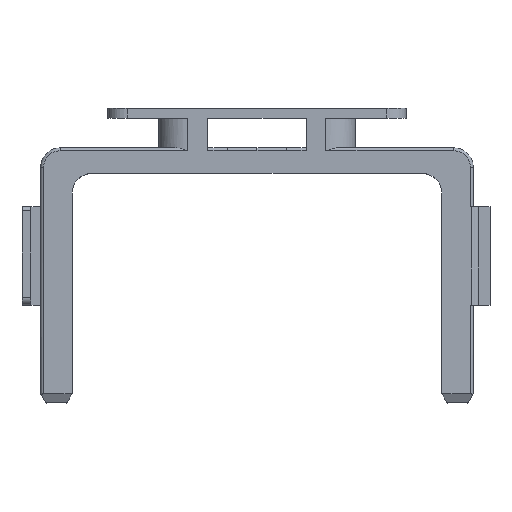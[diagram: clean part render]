
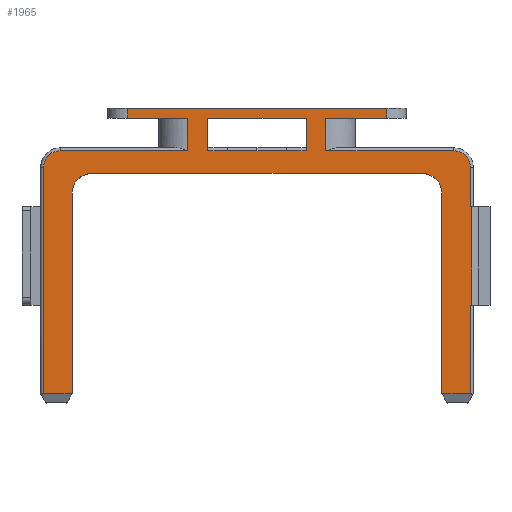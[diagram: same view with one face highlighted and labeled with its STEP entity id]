
A CAD part, top view. The second image highlights one B-rep face of the part: STEP entity #1965.
In plain terms, the highlighted planar face has unit normal (0, 0, 1).
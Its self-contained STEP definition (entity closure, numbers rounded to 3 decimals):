
#24=FACE_BOUND('',#231,.T.);
#42=PLANE('',#2117);
#121=FACE_OUTER_BOUND('',#230,.T.);
#230=EDGE_LOOP('',(#1446,#1447,#1448,#1449,#1450,#1451,#1452,#1453,#1454,
#1455,#1456,#1457,#1458,#1459,#1460,#1461,#1462,#1463,#1464,#1465,#1466,
#1467,#1468,#1469));
#231=EDGE_LOOP('',(#1470,#1471,#1472,#1473,#1474,#1475,#1476));
#386=LINE('',#3034,#605);
#387=LINE('',#3042,#606);
#388=LINE('',#3048,#607);
#390=LINE('',#3053,#609);
#391=LINE('',#3055,#610);
#392=LINE('',#3057,#611);
#393=LINE('',#3059,#612);
#394=LINE('',#3061,#613);
#395=LINE('',#3063,#614);
#396=LINE('',#3065,#615);
#397=LINE('',#3067,#616);
#398=LINE('',#3069,#617);
#399=LINE('',#3073,#618);
#400=LINE('',#3075,#619);
#401=LINE('',#3077,#620);
#402=LINE('',#3081,#621);
#403=LINE('',#3085,#622);
#404=LINE('',#3087,#623);
#405=LINE('',#3089,#624);
#406=LINE('',#3090,#625);
#407=LINE('',#3093,#626);
#408=LINE('',#3095,#627);
#409=LINE('',#3097,#628);
#410=LINE('',#3099,#629);
#411=LINE('',#3101,#630);
#412=LINE('',#3103,#631);
#413=LINE('',#3104,#632);
#605=VECTOR('',#2403,10.);
#606=VECTOR('',#2414,1.5);
#607=VECTOR('',#2419,10.);
#609=VECTOR('',#2425,10.);
#610=VECTOR('',#2426,10.);
#611=VECTOR('',#2427,10.);
#612=VECTOR('',#2428,10.);
#613=VECTOR('',#2429,10.);
#614=VECTOR('',#2430,10.);
#615=VECTOR('',#2431,10.);
#616=VECTOR('',#2432,15.);
#617=VECTOR('',#2433,10.);
#618=VECTOR('',#2436,10.);
#619=VECTOR('',#2437,10.);
#620=VECTOR('',#2438,10.);
#621=VECTOR('',#2441,10.);
#622=VECTOR('',#2444,10.);
#623=VECTOR('',#2445,10.);
#624=VECTOR('',#2446,10.);
#625=VECTOR('',#2447,10.);
#626=VECTOR('',#2448,10.);
#627=VECTOR('',#2449,10.);
#628=VECTOR('',#2450,10.);
#629=VECTOR('',#2451,10.);
#630=VECTOR('',#2452,10.);
#631=VECTOR('',#2453,10.);
#632=VECTOR('',#2454,10.);
#780=CIRCLE('',#2111,8.5);
#784=CIRCLE('',#2118,8.5);
#785=CIRCLE('',#2119,10.);
#786=CIRCLE('',#2120,10.);
#898=VERTEX_POINT('',#3023);
#900=VERTEX_POINT('',#3027);
#901=VERTEX_POINT('',#3036);
#902=VERTEX_POINT('',#3040);
#904=VERTEX_POINT('',#3045);
#905=VERTEX_POINT('',#3047);
#907=VERTEX_POINT('',#3054);
#908=VERTEX_POINT('',#3056);
#909=VERTEX_POINT('',#3058);
#910=VERTEX_POINT('',#3060);
#911=VERTEX_POINT('',#3062);
#912=VERTEX_POINT('',#3064);
#913=VERTEX_POINT('',#3066);
#914=VERTEX_POINT('',#3068);
#915=VERTEX_POINT('',#3070);
#916=VERTEX_POINT('',#3072);
#917=VERTEX_POINT('',#3074);
#918=VERTEX_POINT('',#3076);
#919=VERTEX_POINT('',#3078);
#920=VERTEX_POINT('',#3080);
#921=VERTEX_POINT('',#3082);
#922=VERTEX_POINT('',#3084);
#923=VERTEX_POINT('',#3086);
#924=VERTEX_POINT('',#3088);
#925=VERTEX_POINT('',#3091);
#926=VERTEX_POINT('',#3092);
#927=VERTEX_POINT('',#3094);
#928=VERTEX_POINT('',#3096);
#929=VERTEX_POINT('',#3098);
#930=VERTEX_POINT('',#3100);
#931=VERTEX_POINT('',#3102);
#1109=EDGE_CURVE('',#900,#898,#386,.T.);
#1111=EDGE_CURVE('',#898,#901,#780,.T.);
#1113=EDGE_CURVE('',#901,#902,#387,.T.);
#1115=EDGE_CURVE('',#904,#905,#388,.T.);
#1118=EDGE_CURVE('',#902,#904,#390,.T.);
#1119=EDGE_CURVE('',#907,#900,#391,.T.);
#1120=EDGE_CURVE('',#908,#907,#392,.T.);
#1121=EDGE_CURVE('',#909,#908,#393,.T.);
#1122=EDGE_CURVE('',#910,#909,#394,.T.);
#1123=EDGE_CURVE('',#911,#910,#395,.T.);
#1124=EDGE_CURVE('',#911,#912,#396,.T.);
#1125=EDGE_CURVE('',#913,#912,#397,.T.);
#1126=EDGE_CURVE('',#914,#913,#398,.T.);
#1127=EDGE_CURVE('',#915,#914,#784,.T.);
#1128=EDGE_CURVE('',#916,#915,#399,.T.);
#1129=EDGE_CURVE('',#917,#916,#400,.T.);
#1130=EDGE_CURVE('',#917,#918,#401,.T.);
#1131=EDGE_CURVE('',#919,#918,#785,.T.);
#1132=EDGE_CURVE('',#919,#920,#402,.T.);
#1133=EDGE_CURVE('',#920,#921,#786,.T.);
#1134=EDGE_CURVE('',#922,#921,#403,.T.);
#1135=EDGE_CURVE('',#923,#922,#404,.T.);
#1136=EDGE_CURVE('',#924,#923,#405,.T.);
#1137=EDGE_CURVE('',#905,#924,#406,.T.);
#1138=EDGE_CURVE('',#925,#926,#407,.T.);
#1139=EDGE_CURVE('',#927,#925,#408,.T.);
#1140=EDGE_CURVE('',#927,#928,#409,.T.);
#1141=EDGE_CURVE('',#928,#929,#410,.T.);
#1142=EDGE_CURVE('',#930,#929,#411,.T.);
#1143=EDGE_CURVE('',#930,#931,#412,.T.);
#1144=EDGE_CURVE('',#931,#926,#413,.T.);
#1446=ORIENTED_EDGE('',*,*,#1118,.F.);
#1447=ORIENTED_EDGE('',*,*,#1113,.F.);
#1448=ORIENTED_EDGE('',*,*,#1111,.F.);
#1449=ORIENTED_EDGE('',*,*,#1109,.F.);
#1450=ORIENTED_EDGE('',*,*,#1119,.F.);
#1451=ORIENTED_EDGE('',*,*,#1120,.F.);
#1452=ORIENTED_EDGE('',*,*,#1121,.F.);
#1453=ORIENTED_EDGE('',*,*,#1122,.F.);
#1454=ORIENTED_EDGE('',*,*,#1123,.F.);
#1455=ORIENTED_EDGE('',*,*,#1124,.T.);
#1456=ORIENTED_EDGE('',*,*,#1125,.F.);
#1457=ORIENTED_EDGE('',*,*,#1126,.F.);
#1458=ORIENTED_EDGE('',*,*,#1127,.F.);
#1459=ORIENTED_EDGE('',*,*,#1128,.F.);
#1460=ORIENTED_EDGE('',*,*,#1129,.F.);
#1461=ORIENTED_EDGE('',*,*,#1130,.T.);
#1462=ORIENTED_EDGE('',*,*,#1131,.F.);
#1463=ORIENTED_EDGE('',*,*,#1132,.T.);
#1464=ORIENTED_EDGE('',*,*,#1133,.T.);
#1465=ORIENTED_EDGE('',*,*,#1134,.F.);
#1466=ORIENTED_EDGE('',*,*,#1135,.F.);
#1467=ORIENTED_EDGE('',*,*,#1136,.F.);
#1468=ORIENTED_EDGE('',*,*,#1137,.F.);
#1469=ORIENTED_EDGE('',*,*,#1115,.F.);
#1470=ORIENTED_EDGE('',*,*,#1138,.F.);
#1471=ORIENTED_EDGE('',*,*,#1139,.F.);
#1472=ORIENTED_EDGE('',*,*,#1140,.T.);
#1473=ORIENTED_EDGE('',*,*,#1141,.T.);
#1474=ORIENTED_EDGE('',*,*,#1142,.F.);
#1475=ORIENTED_EDGE('',*,*,#1143,.T.);
#1476=ORIENTED_EDGE('',*,*,#1144,.T.);
#1965=ADVANCED_FACE('',(#121,#24),#42,.T.);
#2111=AXIS2_PLACEMENT_3D('',#3038,#2408,#2409);
#2117=AXIS2_PLACEMENT_3D('',#3052,#2423,#2424);
#2118=AXIS2_PLACEMENT_3D('',#3071,#2434,#2435);
#2119=AXIS2_PLACEMENT_3D('',#3079,#2439,#2440);
#2120=AXIS2_PLACEMENT_3D('',#3083,#2442,#2443);
#2403=DIRECTION('',(1.,0.,0.));
#2408=DIRECTION('center_axis',(0.,0.,-1.));
#2409=DIRECTION('ref_axis',(0.556,0.831,0.));
#2414=DIRECTION('',(0.,-1.,0.));
#2419=DIRECTION('',(0.,-1.,0.));
#2423=DIRECTION('center_axis',(0.,0.,1.));
#2424=DIRECTION('ref_axis',(1.,0.,0.));
#2425=DIRECTION('',(1.,0.,0.));
#2426=DIRECTION('',(0.,-1.,0.));
#2427=DIRECTION('',(-1.,0.,0.));
#2428=DIRECTION('',(0.,-1.,0.));
#2429=DIRECTION('',(1.,0.,0.));
#2430=DIRECTION('',(0.,1.,0.));
#2431=DIRECTION('',(1.,0.,0.));
#2432=DIRECTION('',(0.,1.,0.));
#2433=DIRECTION('',(1.,0.,0.));
#2434=DIRECTION('center_axis',(0.,0.,-1.));
#2435=DIRECTION('ref_axis',(-0.707,0.707,0.));
#2436=DIRECTION('',(0.,1.,0.));
#2437=DIRECTION('',(-1.,0.,0.));
#2438=DIRECTION('',(0.,1.,0.));
#2439=DIRECTION('center_axis',(0.,0.,1.));
#2440=DIRECTION('ref_axis',(-0.707,0.707,0.));
#2441=DIRECTION('',(1.,0.,0.));
#2442=DIRECTION('center_axis',(0.,0.,-1.));
#2443=DIRECTION('ref_axis',(0.707,0.707,0.));
#2444=DIRECTION('',(0.,1.,0.));
#2445=DIRECTION('',(-1.,0.,0.));
#2446=DIRECTION('',(0.,-1.,0.));
#2447=DIRECTION('',(-1.,0.,0.));
#2448=DIRECTION('',(1.,0.,0.));
#2449=DIRECTION('',(1.,0.,0.));
#2450=DIRECTION('',(0.,1.,0.));
#2451=DIRECTION('',(1.,0.,0.));
#2452=DIRECTION('',(0.,1.,0.));
#2453=DIRECTION('',(-1.,0.,0.));
#2454=DIRECTION('',(-1.,0.,0.));
#3023=CARTESIAN_POINT('',(100.,128.5,27.));
#3027=CARTESIAN_POINT('',(35.,128.5,27.));
#3034=CARTESIAN_POINT('',(-2.5,128.5,27.));
#3036=CARTESIAN_POINT('',(108.5,120.,27.));
#3038=CARTESIAN_POINT('Origin',(100.,120.,27.));
#3040=CARTESIAN_POINT('',(108.5,100.,27.));
#3042=CARTESIAN_POINT('',(108.5,75.,27.));
#3045=CARTESIAN_POINT('',(109.244,100.,27.));
#3047=CARTESIAN_POINT('',(109.244,50.,27.));
#3048=CARTESIAN_POINT('',(109.244,0.,27.));
#3052=CARTESIAN_POINT('Origin',(-55.,75.,27.));
#3053=CARTESIAN_POINT('',(29.625,100.,27.));
#3054=CARTESIAN_POINT('',(35.,145.,27.));
#3055=CARTESIAN_POINT('',(35.,110.,27.));
#3056=CARTESIAN_POINT('',(66.,145.,27.));
#3057=CARTESIAN_POINT('',(66.,145.,27.));
#3058=CARTESIAN_POINT('',(66.,150.,27.));
#3059=CARTESIAN_POINT('',(66.,112.5,27.));
#3060=CARTESIAN_POINT('',(-66.,150.,27.));
#3061=CARTESIAN_POINT('',(0.,150.,27.));
#3062=CARTESIAN_POINT('',(-66.,145.,27.));
#3063=CARTESIAN_POINT('',(-66.,112.5,27.));
#3064=CARTESIAN_POINT('',(-35.303,145.,27.));
#3065=CARTESIAN_POINT('',(-66.,145.,27.));
#3066=CARTESIAN_POINT('',(-35.303,128.5,27.));
#3067=CARTESIAN_POINT('',(-35.303,110.,27.));
#3068=CARTESIAN_POINT('',(-100.,128.5,27.));
#3069=CARTESIAN_POINT('',(-52.5,128.5,27.));
#3070=CARTESIAN_POINT('',(-108.5,120.,27.));
#3071=CARTESIAN_POINT('Origin',(-100.,120.,27.));
#3072=CARTESIAN_POINT('',(-108.5,5.,27.));
#3073=CARTESIAN_POINT('',(-108.5,102.5,27.));
#3074=CARTESIAN_POINT('',(-94.,5.,27.));
#3075=CARTESIAN_POINT('',(-82.5,5.,27.));
#3076=CARTESIAN_POINT('',(-94.,107.,27.));
#3077=CARTESIAN_POINT('',(-94.,16.,27.));
#3078=CARTESIAN_POINT('',(-84.,117.,27.));
#3079=CARTESIAN_POINT('Origin',(-84.,107.,27.));
#3080=CARTESIAN_POINT('',(84.,117.,27.));
#3081=CARTESIAN_POINT('',(0.,117.,27.));
#3082=CARTESIAN_POINT('',(94.,107.,27.));
#3083=CARTESIAN_POINT('Origin',(84.,107.,27.));
#3084=CARTESIAN_POINT('',(94.,5.,27.));
#3085=CARTESIAN_POINT('',(94.,16.,27.));
#3086=CARTESIAN_POINT('',(108.5,5.,27.));
#3087=CARTESIAN_POINT('',(27.5,5.,27.));
#3088=CARTESIAN_POINT('',(108.5,50.,27.));
#3089=CARTESIAN_POINT('',(108.5,102.5,27.));
#3090=CARTESIAN_POINT('',(29.625,50.,27.));
#3091=CARTESIAN_POINT('',(-15.,128.5,27.));
#3092=CARTESIAN_POINT('',(0.,128.5,27.));
#3093=CARTESIAN_POINT('',(-27.5,128.5,27.));
#3094=CARTESIAN_POINT('',(-25.,128.5,27.));
#3095=CARTESIAN_POINT('',(-35.,128.5,27.));
#3096=CARTESIAN_POINT('',(-25.,145.,27.));
#3097=CARTESIAN_POINT('',(-25.,130.,27.));
#3098=CARTESIAN_POINT('',(25.,145.,27.));
#3099=CARTESIAN_POINT('',(-25.,145.,27.));
#3100=CARTESIAN_POINT('',(25.,128.5,27.));
#3101=CARTESIAN_POINT('',(25.,130.,27.));
#3102=CARTESIAN_POINT('',(15.,128.5,27.));
#3103=CARTESIAN_POINT('',(35.,128.5,27.));
#3104=CARTESIAN_POINT('',(27.5,128.5,27.));
